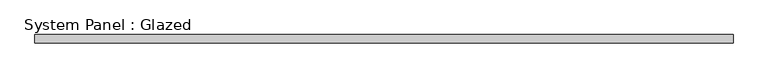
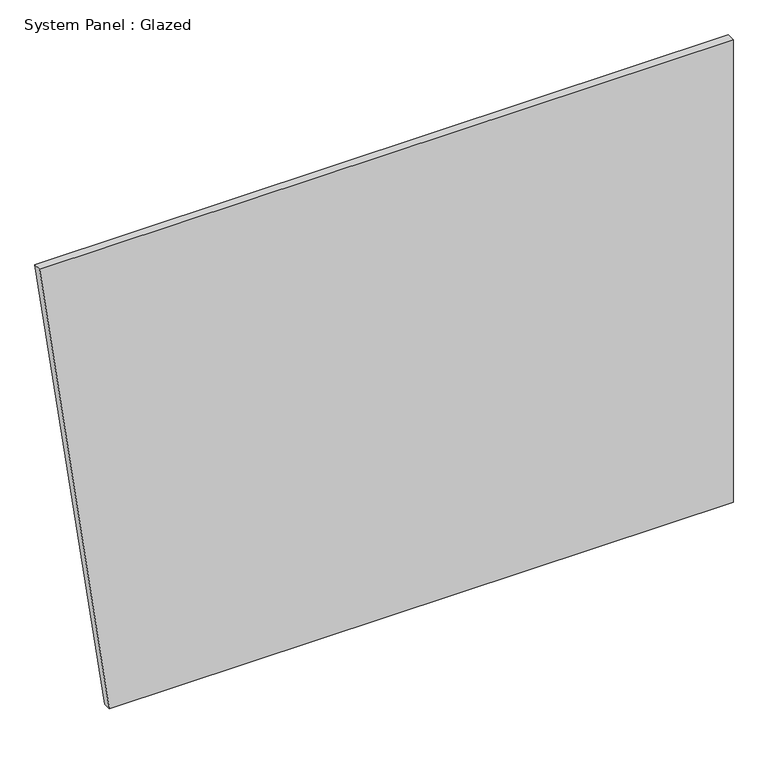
"""IFC4 building model written with IfcOpenShell, lengths in millimetres: plate geometry, System Panel : Glazed."""

from ifc_helpers import new_model, si_unit, frame, origin, place, context, project, spatial, polyline, outline, extrude, source, transform, mapped, element, save


def system_panel_glazed_55f28718(model_context):
    return source(origin(), model_context, "Body", "SweptSolid", [
        extrude(outline(polyline([(0.0, -863.4989063), (0.0, 1080.5442614), (1524.0, 1080.5442614), (1524.0, -1080.5442614), (0.0, -863.4989063)])), frame((0.0, 19.05, 0.0), z_axis=(0.0, 1.0, 0.0), x_axis=(0.0, 0.0, 1.0)), (0.0, 0.0, 1.0), 25.4),
    ])


if __name__ == "__main__":
    model = new_model("IFC4")
    model_context = context("Model", 3, world=origin())
    ifc_project = project(units=[si_unit("LENGTHUNIT", "METRE", prefix="MILLI")], contexts=[model_context])
    site = spatial("IfcSite", under=ifc_project)
    building = spatial("IfcBuilding", under=site)
    placement = place(None, origin())
    system_panel_glazed_shape = system_panel_glazed_55f28718(model_context)
    element("IfcPlate", 1, ObjectType="System Panel : Glazed", at=placement, inside=building, context=model_context, shape_type="MappedRepresentation", body=[
        mapped(system_panel_glazed_shape, transform((0.0, 0.0, 0.0), x_axis=(1.0, 0.0, 0.0), y_axis=(0.0, 1.0, 0.0), z_axis=(0.0, 0.0, 1.0))),
    ])
    save(model, "model.ifc")
